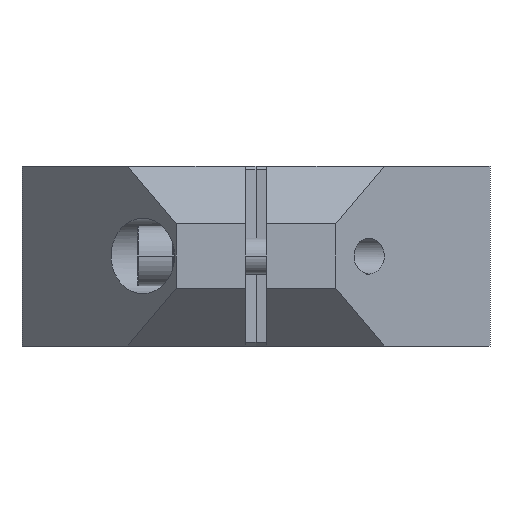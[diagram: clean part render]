
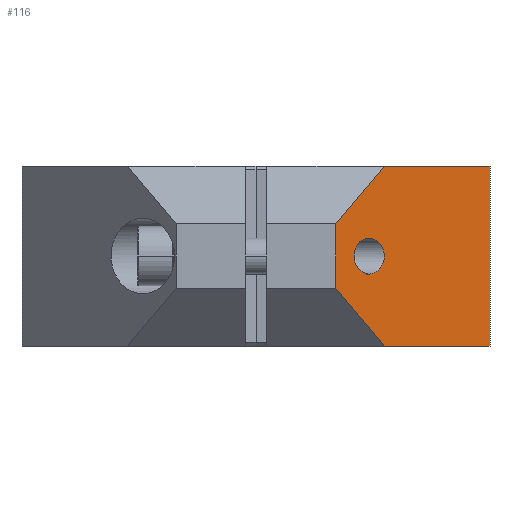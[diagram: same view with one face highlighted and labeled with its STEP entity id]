
A CAD part, left-side view. The second image highlights one B-rep face of the part: STEP entity #116.
In plain terms, the highlighted planar face has unit normal (-0.643, -0.766, 0).
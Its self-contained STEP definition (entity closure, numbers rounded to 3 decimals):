
#116 = ADVANCED_FACE ( 'NONE', ( #6995, #4095 ), #2765, .F. ) ;
#234 = LINE ( 'NONE', #7292, #5881 ) ;
#471 = DIRECTION ( 'NONE',  ( 0., 0., -1. ) ) ;
#504 = ORIENTED_EDGE ( 'NONE', *, *, #4930, .F. ) ;
#721 = VECTOR ( 'NONE', #6507, 1000. ) ;
#790 = LINE ( 'NONE', #7047, #3382 ) ;
#1050 = LINE ( 'NONE', #6890, #2147 ) ;
#1065 = CARTESIAN_POINT ( 'NONE',  ( -27.5, -19.914, 2.5 ) ) ;
#1141 = CARTESIAN_POINT ( 'NONE',  ( -32.5, -15.718, 2.5 ) ) ;
#1603 = VERTEX_POINT ( 'NONE', #2123 ) ;
#1733 = CARTESIAN_POINT ( 'NONE',  ( -38., -11.103, -4.5 ) ) ;
#1769 = DIRECTION ( 'NONE',  ( -0.766, 0.643, 0. ) ) ;
#1849 = CARTESIAN_POINT ( 'NONE',  ( -38., -11.103, 4.5 ) ) ;
#1897 = CARTESIAN_POINT ( 'NONE',  ( -37.5, -11.523, 2.5 ) ) ;
#1995 = EDGE_CURVE ( 'NONE', #1603, #4823, #5332, .T. ) ;
#2123 = CARTESIAN_POINT ( 'NONE',  ( -38., -11.103, 4.5 ) ) ;
#2147 = VECTOR ( 'NONE', #4637, 1000. ) ;
#2209 = VERTEX_POINT ( 'NONE', #1733 ) ;
#2226 = ORIENTED_EDGE ( 'NONE', *, *, #4510, .T. ) ;
#2367 = AXIS2_PLACEMENT_3D ( 'NONE', #4667, #3408, #1769 ) ;
#2507 = CARTESIAN_POINT ( 'NONE',  ( -32.5, -15.718, 2.5 ) ) ;
#2765 = PLANE ( 'NONE',  #2367 ) ;
#2947 =( BOUNDED_CURVE ( )  B_SPLINE_CURVE ( 3, ( #5418, #3618, #1897, #2507 ),
 .UNSPECIFIED., .F., .T. ) 
 B_SPLINE_CURVE_WITH_KNOTS ( ( 4, 4 ),
 ( 1.571, 4.712 ),
 .UNSPECIFIED. ) 
 CURVE ( )  GEOMETRIC_REPRESENTATION_ITEM ( )  RATIONAL_B_SPLINE_CURVE ( ( 1., 0.333, 0.333, 1. ) ) 
 REPRESENTATION_ITEM ( '' )  );
#3007 = EDGE_LOOP ( 'NONE', ( #5639, #6539 ) ) ;
#3131 = ORIENTED_EDGE ( 'NONE', *, *, #6404, .T. ) ;
#3158 = CARTESIAN_POINT ( 'NONE',  ( -12.5, -32.5, 12.5 ) ) ;
#3333 = VECTOR ( 'NONE', #471, 1000. ) ;
#3351 = CARTESIAN_POINT ( 'NONE',  ( -32.5, -15.718, -2.5 ) ) ;
#3361 = VECTOR ( 'NONE', #4416, 1000. ) ;
#3382 = VECTOR ( 'NONE', #6476, 1000. ) ;
#3408 = DIRECTION ( 'NONE',  ( 0.643, 0.766, 0. ) ) ;
#3618 = CARTESIAN_POINT ( 'NONE',  ( -37.5, -11.523, -2.5 ) ) ;
#3689 = LINE ( 'NONE', #3158, #3361 ) ;
#3943 = EDGE_LOOP ( 'NONE', ( #5063, #2226, #5191, #3131, #6964, #504 ) ) ;
#3950 = CARTESIAN_POINT ( 'NONE',  ( -30., -17.816, 12.5 ) ) ;
#4095 = FACE_OUTER_BOUND ( 'NONE', #3943, .T. ) ;
#4227 = DIRECTION ( 'NONE',  ( 0.766, -0.643, 0. ) ) ;
#4416 = DIRECTION ( 'NONE',  ( 0., 0., 1. ) ) ;
#4510 = EDGE_CURVE ( 'NONE', #1603, #2209, #5699, .T. ) ;
#4637 = DIRECTION ( 'NONE',  ( 0.608, -0.51, -0.608 ) ) ;
#4667 = CARTESIAN_POINT ( 'NONE',  ( -38., -11.103, 12.5 ) ) ;
#4823 = VERTEX_POINT ( 'NONE', #3950 ) ;
#4930 = EDGE_CURVE ( 'NONE', #4823, #5295, #234, .T. ) ;
#4965 = VERTEX_POINT ( 'NONE', #7170 ) ;
#5063 = ORIENTED_EDGE ( 'NONE', *, *, #1995, .F. ) ;
#5191 = ORIENTED_EDGE ( 'NONE', *, *, #6637, .T. ) ;
#5295 = VERTEX_POINT ( 'NONE', #5713 ) ;
#5332 = LINE ( 'NONE', #1849, #721 ) ;
#5418 = CARTESIAN_POINT ( 'NONE',  ( -32.5, -15.718, -2.5 ) ) ;
#5639 = ORIENTED_EDGE ( 'NONE', *, *, #7294, .T. ) ;
#5644 = CARTESIAN_POINT ( 'NONE',  ( -27.5, -19.914, -2.5 ) ) ;
#5699 = LINE ( 'NONE', #7487, #3333 ) ;
#5713 = CARTESIAN_POINT ( 'NONE',  ( -12.5, -32.5, 12.5 ) ) ;
#5798 = CARTESIAN_POINT ( 'NONE',  ( -32.5, -15.718, 2.5 ) ) ;
#5827 =( BOUNDED_CURVE ( )  B_SPLINE_CURVE ( 3, ( #1141, #1065, #5644, #6406 ),
 .UNSPECIFIED., .F., .T. ) 
 B_SPLINE_CURVE_WITH_KNOTS ( ( 4, 4 ),
 ( 4.712, 7.854 ),
 .UNSPECIFIED. ) 
 CURVE ( )  GEOMETRIC_REPRESENTATION_ITEM ( )  RATIONAL_B_SPLINE_CURVE ( ( 1., 0.333, 0.333, 1. ) ) 
 REPRESENTATION_ITEM ( '' )  );
#5881 = VECTOR ( 'NONE', #4227, 1000. ) ;
#6203 = VERTEX_POINT ( 'NONE', #5798 ) ;
#6256 = VERTEX_POINT ( 'NONE', #7012 ) ;
#6404 = EDGE_CURVE ( 'NONE', #4965, #6256, #790, .T. ) ;
#6406 = CARTESIAN_POINT ( 'NONE',  ( -32.5, -15.718, -2.5 ) ) ;
#6476 = DIRECTION ( 'NONE',  ( 0.766, -0.643, 0. ) ) ;
#6507 = DIRECTION ( 'NONE',  ( 0.608, -0.51, 0.608 ) ) ;
#6539 = ORIENTED_EDGE ( 'NONE', *, *, #6915, .T. ) ;
#6637 = EDGE_CURVE ( 'NONE', #2209, #4965, #1050, .T. ) ;
#6859 = VERTEX_POINT ( 'NONE', #3351 ) ;
#6890 = CARTESIAN_POINT ( 'NONE',  ( -38., -11.103, -4.5 ) ) ;
#6915 = EDGE_CURVE ( 'NONE', #6203, #6859, #5827, .T. ) ;
#6964 = ORIENTED_EDGE ( 'NONE', *, *, #7354, .T. ) ;
#6995 = FACE_BOUND ( 'NONE', #3007, .T. ) ;
#7012 = CARTESIAN_POINT ( 'NONE',  ( -12.5, -32.5, -12.5 ) ) ;
#7047 = CARTESIAN_POINT ( 'NONE',  ( -30., -17.816, -12.5 ) ) ;
#7170 = CARTESIAN_POINT ( 'NONE',  ( -30., -17.816, -12.5 ) ) ;
#7292 = CARTESIAN_POINT ( 'NONE',  ( -30., -17.816, 12.5 ) ) ;
#7294 = EDGE_CURVE ( 'NONE', #6859, #6203, #2947, .T. ) ;
#7354 = EDGE_CURVE ( 'NONE', #6256, #5295, #3689, .T. ) ;
#7487 = CARTESIAN_POINT ( 'NONE',  ( -38., -11.103, 4.5 ) ) ;
